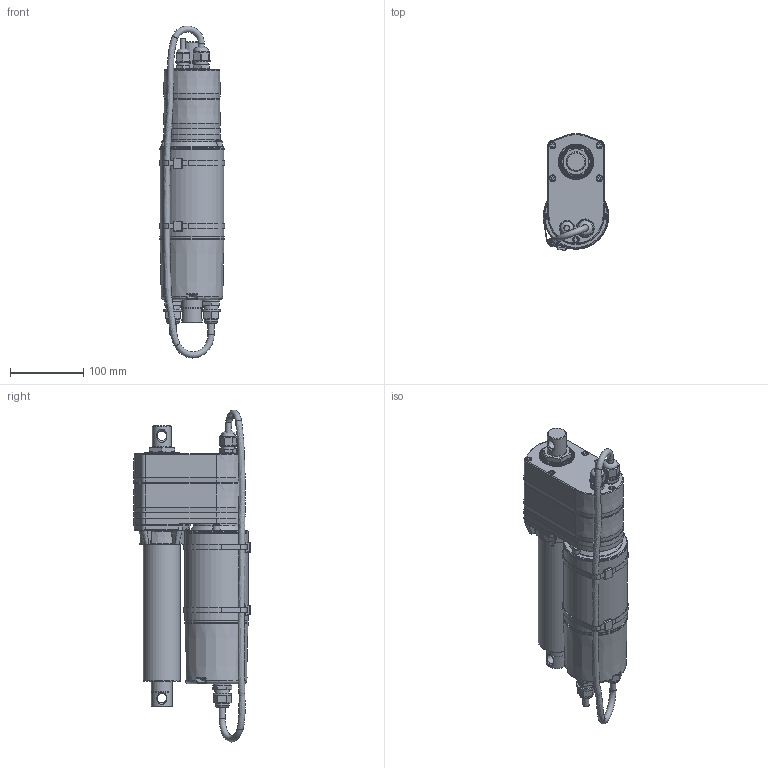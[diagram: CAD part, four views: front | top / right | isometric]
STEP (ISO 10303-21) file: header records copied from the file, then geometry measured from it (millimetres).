
FILE_DESCRIPTION (( 'STEP AP203' ), '1' );
FILE_NAME ('IA5-ACME+LT+POT-102.STEP', '2019-02-27T09:06:28', ( '' ), ( '' ), 'SwSTEP 2.0', 'SolidWorks 2015', '' );
FILE_SCHEMA (( 'CONFIG_CONTROL_DESIGN' ));
Length unit declared in the file: millimetre
Products named in the file (3): IA05-A-1; IA05-A-2; IA5-ACME+LT+POT-102
Assembly tree (2 placements, depth 2):
  IA5-ACME+LT+POT-102
    IA05-A-1
    IA05-A-2
Bounding box: 89.57 x 159.59 x 454.06 mm (x, y, z)
Volume: 2963736.6 mm3; surface area: 277018.1 mm2
Topology: 3 solids, 3 shells, 1205 faces, 3047 edges, 1889 vertices
Faces by surface type: plane 719, cylinder 212, bspline 108, torus 101, cone 59, sphere 6
Full cylindrical faces by diameter (mm): 7 x4, 8.5 x8, 9 x5, 13 x2, 16.5 x2, 18 x1, 19 x2, 20 x3, 21 x1, 22 x1, 24 x2, 25 x3, 26 x1, 28 x1, 28.1 x1, 28.6 x3, 28.62 x1, 48.2 x1, 50.8 x2, 63.5 x1, 87 x3, 88 x3
Entity records: 39849 total; most frequent: CARTESIAN_POINT 13403, ORIENTED_EDGE 5854, DIRECTION 5006, EDGE_CURVE 2927, AXIS2_PLACEMENT_3D 1880, VERTEX_POINT 1861, EDGE_LOOP 1348, FACE_OUTER_BOUND 1275
